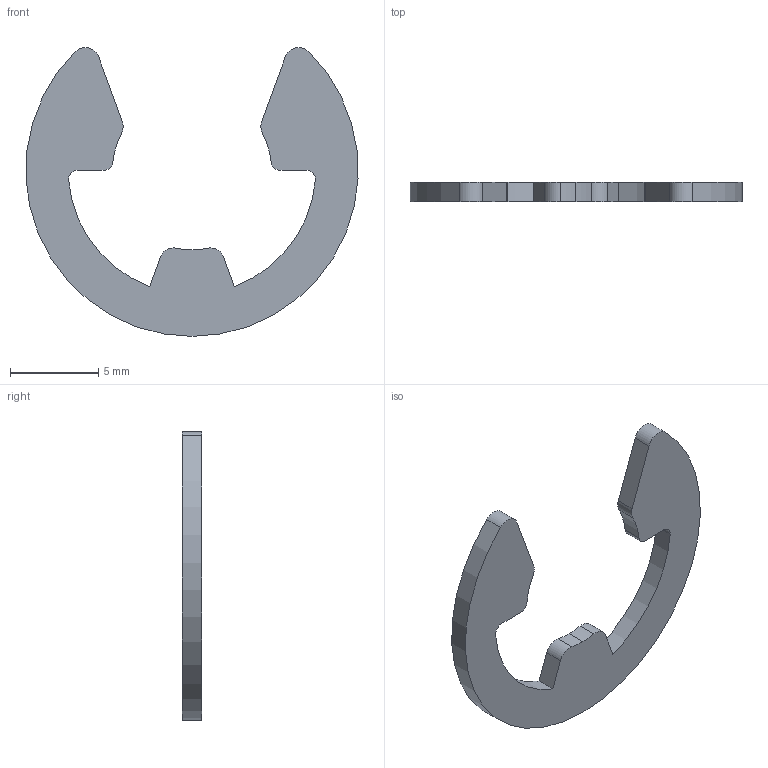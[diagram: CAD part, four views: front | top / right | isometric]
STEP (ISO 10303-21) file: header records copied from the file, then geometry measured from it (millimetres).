
FILE_DESCRIPTION (( 'STEP AP203' ), '1' );
FILE_NAME ('P0382.090-PH.step', '2019-07-25T21:00:57', ( '' ), ( '' ), 'SwSTEP 2.0', 'SolidWorks 2017', '' );
FILE_SCHEMA (( 'CONFIG_CONTROL_DESIGN' ));
Length unit declared in the file: millimetre
Products named in the file (1): P0382.090-PH
Bounding box: 18.78 x 1.1 x 16.33 mm (x, y, z)
Volume: 138.8 mm3; surface area: 351.3 mm2
Topology: 1 solids, 1 shells, 26 faces, 72 edges, 48 vertices
Faces by surface type: cylinder 18, plane 8
Entity records: 929 total; most frequent: DIRECTION 162, CARTESIAN_POINT 147, ORIENTED_EDGE 144, EDGE_CURVE 72, AXIS2_PLACEMENT_3D 63, VERTEX_POINT 48, VECTOR 36, CIRCLE 36
